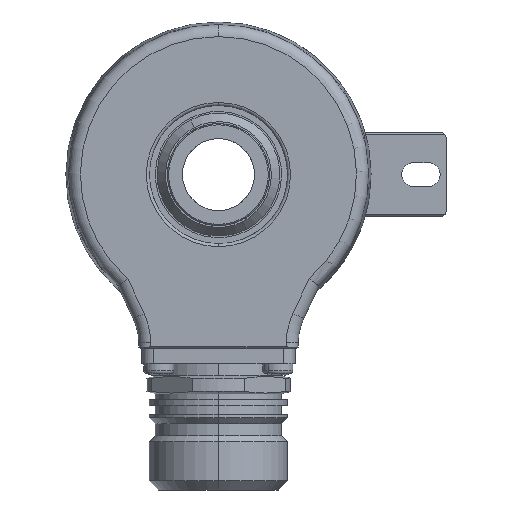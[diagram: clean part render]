
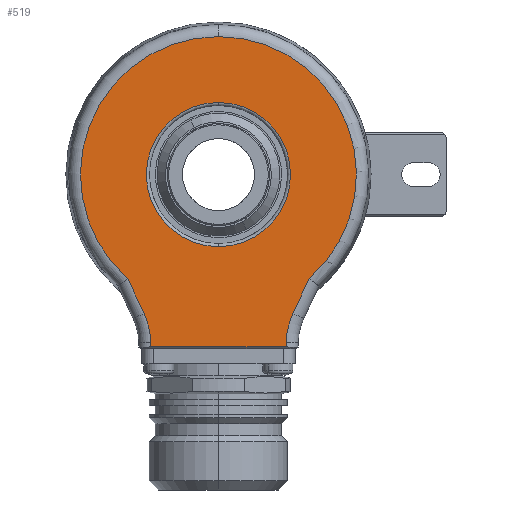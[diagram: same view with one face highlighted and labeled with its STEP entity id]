
A CAD part, left-side view. The second image highlights one B-rep face of the part: STEP entity #519.
In plain terms, the highlighted planar face has unit normal (-1, 0, 0).
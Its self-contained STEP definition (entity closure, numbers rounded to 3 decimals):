
#28 = EDGE_CURVE ( 'NONE', #35, #122, #4812, .T. ) ;
#35 = VERTEX_POINT ( 'NONE', #4781 ) ;
#112 = VERTEX_POINT ( 'NONE', #4965 ) ;
#116 = VERTEX_POINT ( 'NONE', #5125 ) ;
#122 = VERTEX_POINT ( 'NONE', #4944 ) ;
#132 = EDGE_CURVE ( 'NONE', #445, #35, #4933, .T. ) ;
#147 = EDGE_CURVE ( 'NONE', #152, #444, #5327, .T. ) ;
#150 = EDGE_CURVE ( 'NONE', #116, #112, #5322, .T. ) ;
#152 = VERTEX_POINT ( 'NONE', #5317 ) ;
#154 = EDGE_CURVE ( 'NONE', #112, #152, #5161, .T. ) ;
#199 = VERTEX_POINT ( 'NONE', #5340 ) ;
#216 = EDGE_CURVE ( 'NONE', #220, #199, #5551, .T. ) ;
#220 = VERTEX_POINT ( 'NONE', #5456 ) ;
#387 = ORIENTED_EDGE ( 'NONE', *, *, #28, .T. ) ;
#397 = ORIENTED_EDGE ( 'NONE', *, *, #443, .T. ) ;
#414 = EDGE_CURVE ( 'NONE', #415, #456, #5599, .T. ) ;
#415 = VERTEX_POINT ( 'NONE', #5594 ) ;
#443 = EDGE_CURVE ( 'NONE', #444, #445, #5890, .T. ) ;
#444 = VERTEX_POINT ( 'NONE', #5886 ) ;
#445 = VERTEX_POINT ( 'NONE', #5885 ) ;
#456 = VERTEX_POINT ( 'NONE', #5950 ) ;
#482 = ORIENTED_EDGE ( 'NONE', *, *, #132, .T. ) ;
#484 = ORIENTED_EDGE ( 'NONE', *, *, #154, .T. ) ;
#485 = ORIENTED_EDGE ( 'NONE', *, *, #147, .T. ) ;
#488 = ORIENTED_EDGE ( 'NONE', *, *, #524, .T. ) ;
#489 = ORIENTED_EDGE ( 'NONE', *, *, #216, .T. ) ;
#490 = ORIENTED_EDGE ( 'NONE', *, *, #505, .T. ) ;
#495 = EDGE_CURVE ( 'NONE', #456, #415, #6158, .T. ) ;
#505 = EDGE_CURVE ( 'NONE', #199, #116, #6210, .T. ) ;
#506 = ORIENTED_EDGE ( 'NONE', *, *, #150, .T. ) ;
#510 = EDGE_LOOP ( 'NONE', ( #520, #515 ) ) ;
#515 = ORIENTED_EDGE ( 'NONE', *, *, #495, .T. ) ;
#519 = ADVANCED_FACE ( 'NONE', ( #6112, #6111 ), #6029, .F. ) ;
#520 = ORIENTED_EDGE ( 'NONE', *, *, #414, .T. ) ;
#523 = EDGE_LOOP ( 'NONE', ( #488, #489, #490, #506, #484, #485, #397, #482, #387 ) ) ;
#524 = EDGE_CURVE ( 'NONE', #122, #220, #6019, .T. ) ;
#4781 = CARTESIAN_POINT ( 'NONE',  ( -21., 12.39, -23.112 ) ) ;
#4808 = DIRECTION ( 'NONE',  ( 0., 0., 1. ) ) ;
#4809 = DIRECTION ( 'NONE',  ( 1., 0., 0. ) ) ;
#4810 = CARTESIAN_POINT ( 'NONE',  ( -21., 23.266, -28.183 ) ) ;
#4811 = AXIS2_PLACEMENT_3D ( 'NONE', #4810, #4809, #4808 ) ;
#4812 = CIRCLE ( 'NONE', #4811, 12. ) ;
#4930 = DIRECTION ( 'NONE',  ( 0., -0.423, -0.906 ) ) ;
#4931 = VECTOR ( 'NONE', #4930, 1000. ) ;
#4932 = CARTESIAN_POINT ( 'NONE',  ( -21., 12.39, -23.112 ) ) ;
#4933 = LINE ( 'NONE', #4932, #4931 ) ;
#4944 = CARTESIAN_POINT ( 'NONE',  ( -21., 11.268, -27.974 ) ) ;
#4965 = CARTESIAN_POINT ( 'NONE',  ( -21., -12.39, -23.112 ) ) ;
#5125 = CARTESIAN_POINT ( 'NONE',  ( -21., -11.268, -27.974 ) ) ;
#5154 = DIRECTION ( 'NONE',  ( 0., -0.423, 0.906 ) ) ;
#5155 = VECTOR ( 'NONE', #5154, 1000. ) ;
#5156 = CARTESIAN_POINT ( 'NONE',  ( -21., -14.953, -17.615 ) ) ;
#5161 = LINE ( 'NONE', #5156, #5155 ) ;
#5317 = CARTESIAN_POINT ( 'NONE',  ( -21., -15.091, -17.32 ) ) ;
#5318 = DIRECTION ( 'NONE',  ( 0., 0., 1. ) ) ;
#5319 = DIRECTION ( 'NONE',  ( 1., 0., 0. ) ) ;
#5320 = CARTESIAN_POINT ( 'NONE',  ( -21., -23.266, -28.183 ) ) ;
#5321 = AXIS2_PLACEMENT_3D ( 'NONE', #5320, #5319, #5318 ) ;
#5322 = CIRCLE ( 'NONE', #5321, 12. ) ;
#5323 = DIRECTION ( 'NONE',  ( 0., 0., 1. ) ) ;
#5324 = DIRECTION ( 'NONE',  ( -1., 0., 0. ) ) ;
#5325 = CARTESIAN_POINT ( 'NONE',  ( -21., 0., 0. ) ) ;
#5326 = AXIS2_PLACEMENT_3D ( 'NONE', #5325, #5324, #5323 ) ;
#5327 = CIRCLE ( 'NONE', #5326, 22.972 ) ;
#5340 = CARTESIAN_POINT ( 'NONE',  ( -21., -11.255, -28.695 ) ) ;
#5456 = CARTESIAN_POINT ( 'NONE',  ( -21., 11.255, -28.695 ) ) ;
#5487 = DIRECTION ( 'NONE',  ( 0., -1., 0. ) ) ;
#5488 = VECTOR ( 'NONE', #5487, 1000. ) ;
#5489 = CARTESIAN_POINT ( 'NONE',  ( -21., -11.25, -28.695 ) ) ;
#5551 = LINE ( 'NONE', #5489, #5488 ) ;
#5594 = CARTESIAN_POINT ( 'NONE',  ( -21., 0., 12. ) ) ;
#5595 = DIRECTION ( 'NONE',  ( 0., 0., 1. ) ) ;
#5596 = DIRECTION ( 'NONE',  ( 1., 0., 0. ) ) ;
#5597 = CARTESIAN_POINT ( 'NONE',  ( -21., 0., 0. ) ) ;
#5598 = AXIS2_PLACEMENT_3D ( 'NONE', #5597, #5596, #5595 ) ;
#5599 = CIRCLE ( 'NONE', #5598, 12. ) ;
#5833 = CARTESIAN_POINT ( 'NONE',  ( -21., 0., 0. ) ) ;
#5885 = CARTESIAN_POINT ( 'NONE',  ( -21., 15.091, -17.32 ) ) ;
#5886 = CARTESIAN_POINT ( 'NONE',  ( -21., 0., 22.972 ) ) ;
#5887 = DIRECTION ( 'NONE',  ( 0., 0., 1. ) ) ;
#5888 = DIRECTION ( 'NONE',  ( -1., 0., 0. ) ) ;
#5889 = AXIS2_PLACEMENT_3D ( 'NONE', #5833, #5888, #5887 ) ;
#5890 = CIRCLE ( 'NONE', #5889, 22.972 ) ;
#5950 = CARTESIAN_POINT ( 'NONE',  ( -21., 0., -12. ) ) ;
#6016 = DIRECTION ( 'NONE',  ( 0., -0.017, -1. ) ) ;
#6017 = VECTOR ( 'NONE', #6016, 1000. ) ;
#6018 = CARTESIAN_POINT ( 'NONE',  ( -21., 11.752, -0.205 ) ) ;
#6019 = LINE ( 'NONE', #6018, #6017 ) ;
#6025 = DIRECTION ( 'NONE',  ( 0., 0., 1. ) ) ;
#6026 = DIRECTION ( 'NONE',  ( 1., 0., 0. ) ) ;
#6027 = CARTESIAN_POINT ( 'NONE',  ( -21., 0., 0. ) ) ;
#6028 = AXIS2_PLACEMENT_3D ( 'NONE', #6027, #6026, #6025 ) ;
#6029 = PLANE ( 'NONE',  #6028 ) ;
#6111 = FACE_OUTER_BOUND ( 'NONE', #523, .T. ) ;
#6112 = FACE_BOUND ( 'NONE', #510, .T. ) ;
#6155 = DIRECTION ( 'NONE',  ( 0., 0., 1. ) ) ;
#6156 = DIRECTION ( 'NONE',  ( 1., 0., 0. ) ) ;
#6157 = AXIS2_PLACEMENT_3D ( 'NONE', #6164, #6156, #6155 ) ;
#6158 = CIRCLE ( 'NONE', #6157, 12. ) ;
#6164 = CARTESIAN_POINT ( 'NONE',  ( -21., 0., 0. ) ) ;
#6207 = DIRECTION ( 'NONE',  ( 0., -0.017, 1. ) ) ;
#6208 = VECTOR ( 'NONE', #6207, 1000. ) ;
#6209 = CARTESIAN_POINT ( 'NONE',  ( -21., -11.752, -0.205 ) ) ;
#6210 = LINE ( 'NONE', #6209, #6208 ) ;
